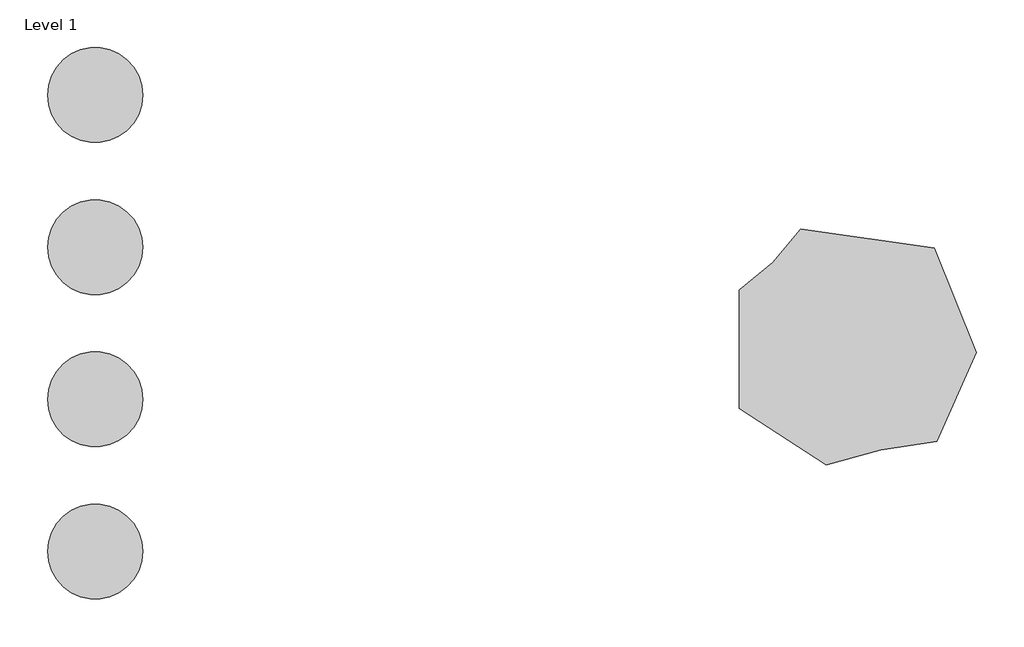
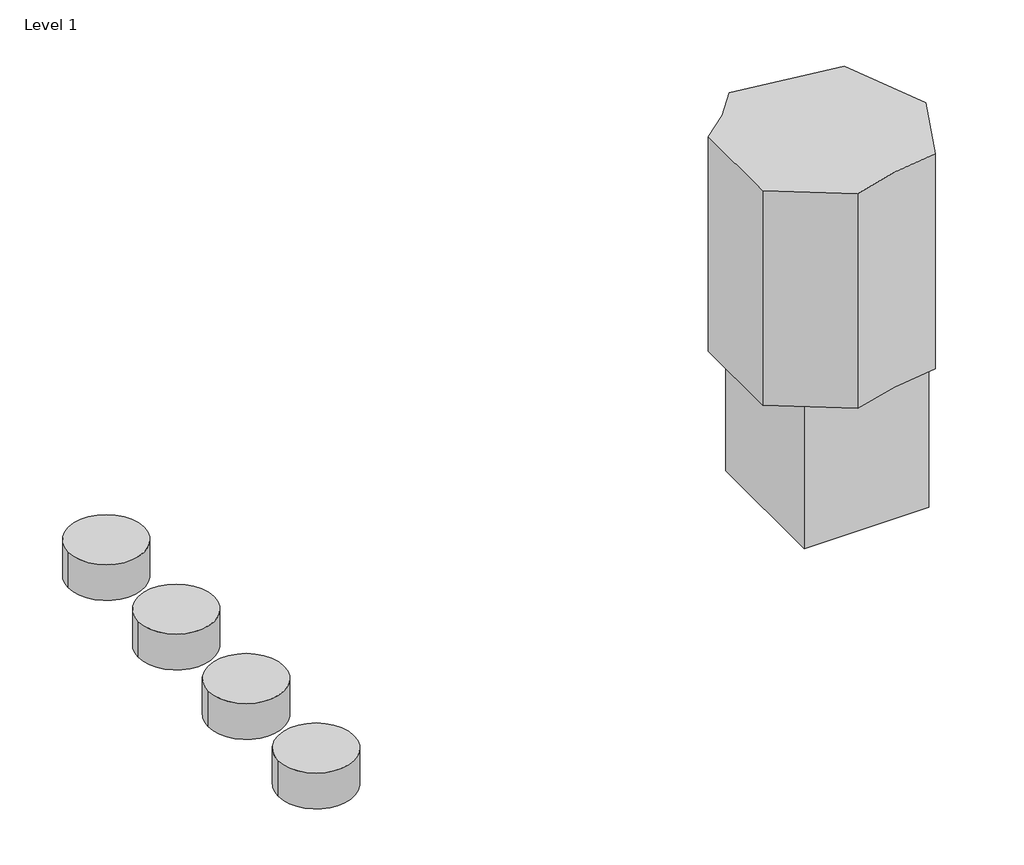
# One storey: 4 proxies, 1 furniture element.
"""IFC4 building model written with IfcOpenShell, lengths in millimetres."""

from ifc_helpers import new_model, si_unit, origin, place, context, project, spatial, transform, mapped, element, save
from components import materialmodel_materialmodel_02e69005, furniture_6fb1302f

model = new_model("IFC4")

# Units and contexts
model_context = context("Model", 3, world=origin())
ifc_project = project(units=[si_unit("LENGTHUNIT", "METRE", prefix="MILLI")], contexts=[model_context])

# Site, building, storey
site = spatial("IfcSite", under=ifc_project)
building = spatial("IfcBuilding", under=site)
storey = spatial("IfcBuildingStorey", under=building, Name="Level 1", Elevation=0.0)

# Proxies
placement = place(None, origin())
materialmodel_materialmodel_shape = materialmodel_materialmodel_02e69005(model_context)
element("IfcBuildingElementProxy", 1, Name="MaterialModel : MaterialModel", ObjectType="MaterialModel : MaterialModel", at=placement, inside=storey, context=model_context, shape_type="MappedRepresentation", body=[
    mapped(materialmodel_materialmodel_shape, transform((-5719.8812659, 4474.882683, 0.0), x_axis=(1.0, 0.0, 0.0), y_axis=(0.0, 1.0, 0.0), z_axis=(0.0, 0.0, 1.0))),
])
element("IfcBuildingElementProxy", 2, Name="MaterialModel : MaterialModel", ObjectType="MaterialModel : MaterialModel", at=placement, inside=storey, context=model_context, shape_type="MappedRepresentation", body=[
    mapped(materialmodel_materialmodel_shape, transform((-5719.8812659, 4314.882683, 0.0), x_axis=(1.0, 0.0, 0.0), y_axis=(0.0, 1.0, 0.0), z_axis=(0.0, 0.0, 1.0))),
])
element("IfcBuildingElementProxy", 3, Name="MaterialModel : MaterialModel", ObjectType="MaterialModel : MaterialModel", at=placement, inside=storey, context=model_context, shape_type="MappedRepresentation", body=[
    mapped(materialmodel_materialmodel_shape, transform((-5719.8812659, 4154.882683, 0.0), x_axis=(1.0, 0.0, 0.0), y_axis=(0.0, 1.0, 0.0), z_axis=(0.0, 0.0, 1.0))),
])
element("IfcBuildingElementProxy", 4, Name="MaterialModel : MaterialModel", ObjectType="MaterialModel : MaterialModel", at=placement, inside=storey, context=model_context, shape_type="MappedRepresentation", body=[
    mapped(materialmodel_materialmodel_shape, transform((-5719.8812659, 3994.882683, 0.0), x_axis=(1.0, 0.0, 0.0), y_axis=(0.0, 1.0, 0.0), z_axis=(0.0, 0.0, 1.0))),
])

# Furniture
furniture_shape = furniture_6fb1302f(model_context)
element("IfcFurniture", 5, ObjectType="Norr11 - Quartz Table : Norr11 - Quartz Table", at=placement, inside=storey, context=model_context, shape_type="MappedRepresentation", body=[
    mapped(furniture_shape, transform((-4918.5652351, 4209.8416331, 0.0), x_axis=(1.0, 0.0, 0.0), y_axis=(0.0, 1.0, 0.0), z_axis=(0.0, 0.0, 1.0))),
])

save(model, "model.ifc")
